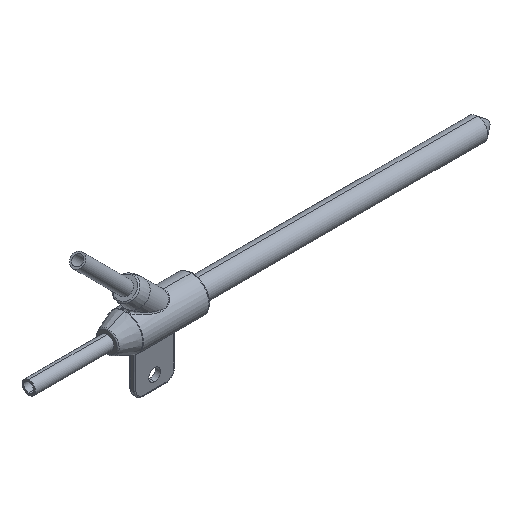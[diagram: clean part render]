
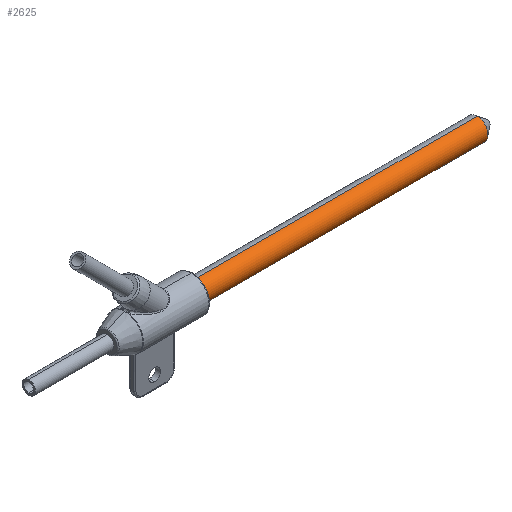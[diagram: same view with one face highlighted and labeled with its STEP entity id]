
A CAD part, isometric view. The second image highlights one B-rep face of the part: STEP entity #2625.
In plain terms, the highlighted cylindrical face has radius 2.4 mm (diameter 4.8 mm), a partial arc.
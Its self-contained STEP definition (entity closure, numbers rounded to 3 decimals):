
#36 = CARTESIAN_POINT ( 'NONE',  ( 36.5, 0., 2.4 ) ) ;
#110 = EDGE_LOOP ( 'NONE', ( #306, #2715, #3099, #3189 ) ) ;
#119 = CIRCLE ( 'NONE', #2469, 2.4 ) ;
#203 = CIRCLE ( 'NONE', #1110, 2.4 ) ;
#306 = ORIENTED_EDGE ( 'NONE', *, *, #2421, .F. ) ;
#363 = LINE ( 'NONE', #1611, #447 ) ;
#372 = VERTEX_POINT ( 'NONE', #36 ) ;
#447 = VECTOR ( 'NONE', #2821, 1000. ) ;
#498 = EDGE_CURVE ( 'NONE', #2251, #372, #557, .T. ) ;
#557 = LINE ( 'NONE', #853, #2157 ) ;
#712 = CARTESIAN_POINT ( 'NONE',  ( 0., 0., 0. ) ) ;
#853 = CARTESIAN_POINT ( 'NONE',  ( 0., 0., 2.4 ) ) ;
#948 = FACE_OUTER_BOUND ( 'NONE', #110, .T. ) ;
#1028 = CARTESIAN_POINT ( 'NONE',  ( 36.5, 0., 0. ) ) ;
#1110 = AXIS2_PLACEMENT_3D ( 'NONE', #1028, #2538, #1524 ) ;
#1213 = CARTESIAN_POINT ( 'NONE',  ( 100., 0., 0. ) ) ;
#1357 = VERTEX_POINT ( 'NONE', #2227 ) ;
#1410 = AXIS2_PLACEMENT_3D ( 'NONE', #712, #1671, #3188 ) ;
#1524 = DIRECTION ( 'NONE',  ( 0., 0., 1. ) ) ;
#1533 = EDGE_CURVE ( 'NONE', #3095, #372, #203, .T. ) ;
#1611 = CARTESIAN_POINT ( 'NONE',  ( 0., 0., -2.4 ) ) ;
#1671 = DIRECTION ( 'NONE',  ( -1., 0., 0. ) ) ;
#1674 = DIRECTION ( 'NONE',  ( 0., 0., 1. ) ) ;
#1707 = CYLINDRICAL_SURFACE ( 'NONE', #1410, 2.4 ) ;
#2110 = DIRECTION ( 'NONE',  ( -1., 0., 0. ) ) ;
#2157 = VECTOR ( 'NONE', #2110, 1000. ) ;
#2227 = CARTESIAN_POINT ( 'NONE',  ( 100., 0., -2.4 ) ) ;
#2247 = CARTESIAN_POINT ( 'NONE',  ( 36.5, 0., -2.4 ) ) ;
#2251 = VERTEX_POINT ( 'NONE', #3096 ) ;
#2421 = EDGE_CURVE ( 'NONE', #1357, #3095, #363, .T. ) ;
#2455 = DIRECTION ( 'NONE',  ( -1., 0., 0. ) ) ;
#2469 = AXIS2_PLACEMENT_3D ( 'NONE', #1213, #2455, #1674 ) ;
#2538 = DIRECTION ( 'NONE',  ( -1., 0., 0. ) ) ;
#2625 = ADVANCED_FACE ( 'NONE', ( #948 ), #1707, .T. ) ;
#2715 = ORIENTED_EDGE ( 'NONE', *, *, #3013, .T. ) ;
#2821 = DIRECTION ( 'NONE',  ( -1., 0., 0. ) ) ;
#3013 = EDGE_CURVE ( 'NONE', #1357, #2251, #119, .T. ) ;
#3095 = VERTEX_POINT ( 'NONE', #2247 ) ;
#3096 = CARTESIAN_POINT ( 'NONE',  ( 100., 0., 2.4 ) ) ;
#3099 = ORIENTED_EDGE ( 'NONE', *, *, #498, .T. ) ;
#3188 = DIRECTION ( 'NONE',  ( 0., 0., 1. ) ) ;
#3189 = ORIENTED_EDGE ( 'NONE', *, *, #1533, .F. ) ;
